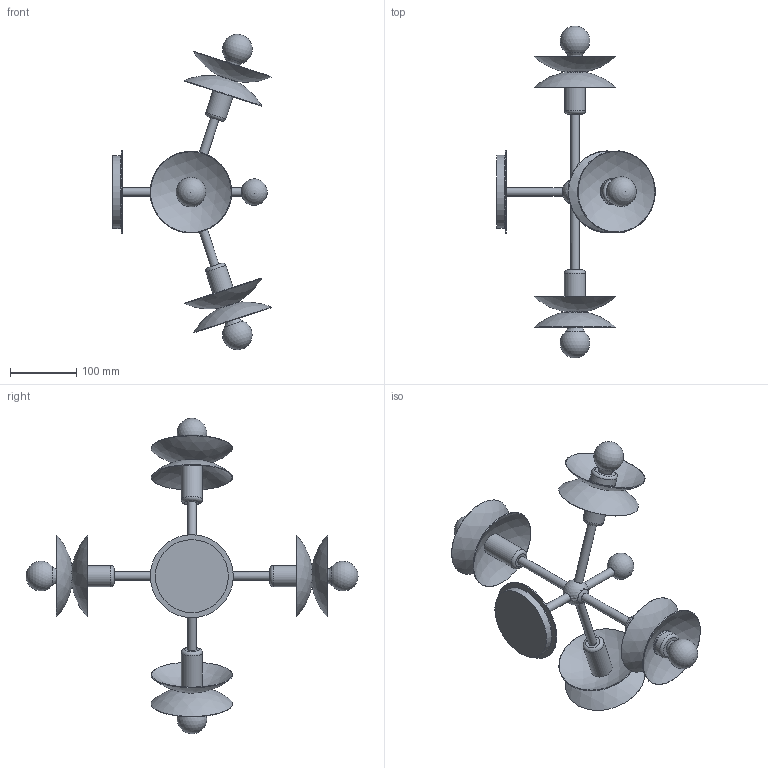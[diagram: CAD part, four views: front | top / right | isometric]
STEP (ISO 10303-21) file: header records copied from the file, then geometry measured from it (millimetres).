
FILE_DESCRIPTION(/* description */ (''),/* implementation_level */ '2;1');
FILE_NAME(/* name */ '260518_B_B792.stp',/* time_stamp */ '2026-05-18T11:56:46+02:00',/* author */ ('Dominik'),/* organization */ (''),/* preprocessor_version */ 'ST-DEVELOPER v20.1',/* originating_system */ 'Autodesk Inventor 2027',/* authorisation */ '');
FILE_SCHEMA (('AUTOMOTIVE_DESIGN { 1 0 10303 214 3 1 1 }'));
Length unit declared in the file: millimetre
Products named in the file (1): B792 jako część
Bounding box: 238.81 x 500.61 x 475.51 mm (x, y, z)
Volume: 874804.4 mm3; surface area: 340353.1 mm2
Topology: 6 solids, 7 shells, 137 faces, 263 edges, 172 vertices
Faces by surface type: cylinder 42, plane 38, sphere 27, torus 17, cone 9, bspline 4
Full cylindrical faces by diameter (mm): 11.6 x1, 11.917 x1, 12.5 x1, 13 x6, 13.5 x5, 23.1 x1, 23.5 x1, 28 x4, 29 x8, 32 x4, 39.5 x8, 110 x1, 125 x1
Entity records: 4612 total; most frequent: CARTESIAN_POINT 1424, DIRECTION 697, ORIENTED_EDGE 514, AXIS2_PLACEMENT_3D 323, EDGE_CURVE 257, CIRCLE 189, EDGE_LOOP 188, VERTEX_POINT 172
